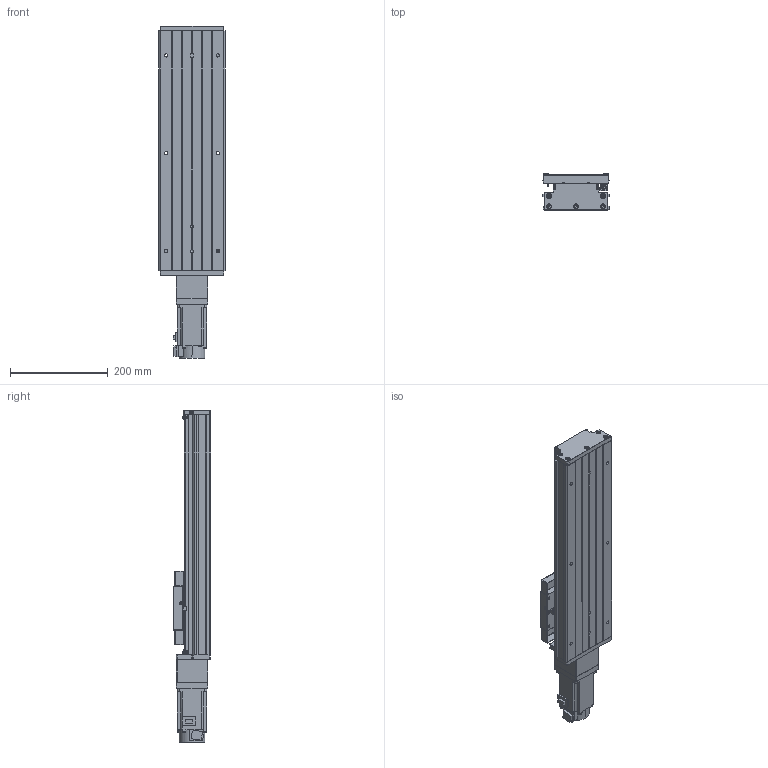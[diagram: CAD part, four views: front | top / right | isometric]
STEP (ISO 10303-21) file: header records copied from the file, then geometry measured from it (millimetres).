
FILE_DESCRIPTION (( 'STEP AP203' ), '1' );
FILE_NAME ('CTH130-300-BC-M40-C4.step', '2023-06-30T02:32:39', ( '微软用户' ), ( '微软中国' ), 'SwSTEP 2.0', 'SolidWorks 2020', '' );
FILE_SCHEMA (( 'CONFIG_CONTROL_DESIGN' ));
Length unit declared in the file: millimetre
Products named in the file (21): GB T308.1-2013-6.35; EE_SX911P_R; CTHA86-006-1_M40; GTH14-004; CTHA60-016; CTHA86-013; GTH14-005; GBT 70.1-M3℅5; CTHA86-027-1; GBT77-2000 M3×3; GBT 70.3-M3℅8; GB1155-6X6; CTH130-031; HG-KN43J-S100; GBT70.1 M5℅16; GTH14-001_300; GBT 70.2-M3¡Á5_M3¡Á6; CTH130-300-BC-M40-C4; CTHA60-017; CTH130-002_GTH14-002; す晦芛蹟隊 M3℅5
Assembly tree (59 placements, depth 2):
  CTH130-300-BC-M40-C4
    GTH14-001_300
    CTH130-002_GTH14-002
    GB T308.1-2013-6.35  x2
    GTH14-004
    GTH14-005
    GB1155-6X6  x2
    GBT70.1 M5℅16  x10
    CTHA60-017  x3
    EE_SX911P_R  x3
    CTHA60-016  x2
    GBT 70.1-M3℅5  x6
    GBT77-2000 M3×3  x6
    CTH130-031
    GBT 70.2-M3¡Á5_M3¡Á6  x8
    す晦芛蹟隊 M3℅5  x6
    CTHA86-006-1_M40
    CTHA86-013
    CTHA86-027-1
    GBT 70.3-M3℅8  x2
    HG-KN43J-S100
Bounding box: 135 x 76 x 678.7 mm (x, y, z)
Volume: 3287104.1 mm3; surface area: 557323.3 mm2
Topology: 62 solids, 62 shells, 2360 faces, 5633 edges, 3487 vertices
Faces by surface type: plane 1299, cylinder 610, cone 287, torus 120, sphere 24, bspline 20
Entity records: 43064 total; most frequent: CARTESIAN_POINT 9705, DIRECTION 6211, ORIENTED_EDGE 6166, EDGE_CURVE 3083, AXIS2_PLACEMENT_3D 2089, LINE 2033, VECTOR 2033, VERTEX_POINT 1947
